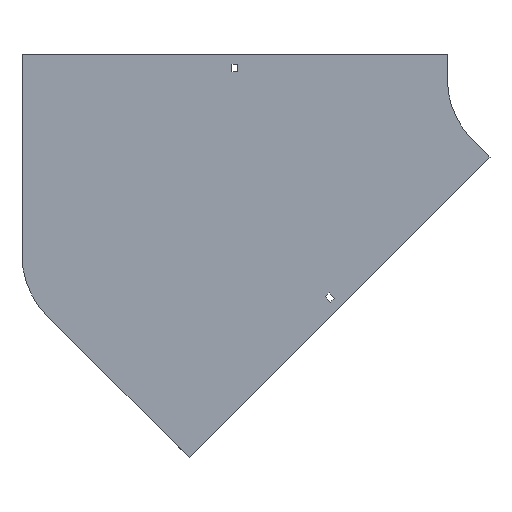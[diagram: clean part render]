
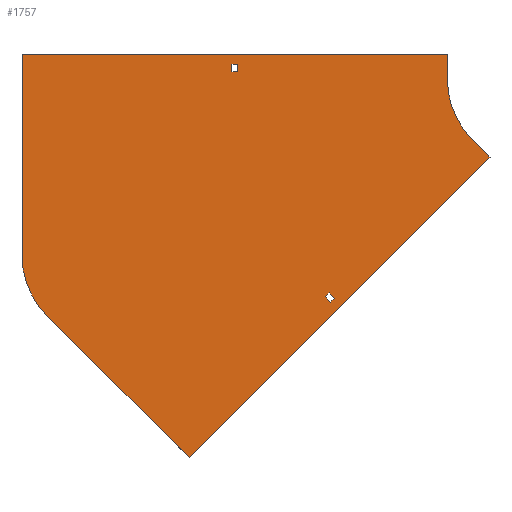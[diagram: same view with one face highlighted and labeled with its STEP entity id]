
A CAD part, front view. The second image highlights one B-rep face of the part: STEP entity #1757.
In plain terms, the highlighted planar face has unit normal (0, -1, 0).
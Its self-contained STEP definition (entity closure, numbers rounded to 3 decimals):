
#8 = EDGE_LOOP ( 'NONE', ( #658, #1760, #96, #1423 ) ) ;
#26 = CARTESIAN_POINT ( 'NONE',  ( -604., 0., 30. ) ) ;
#62 = DIRECTION ( 'NONE',  ( -0.707, 0., 0.707 ) ) ;
#72 = DIRECTION ( 'NONE',  ( 0., 0., -1. ) ) ;
#96 = ORIENTED_EDGE ( 'NONE', *, *, #189, .T. ) ;
#108 = ORIENTED_EDGE ( 'NONE', *, *, #1596, .F. ) ;
#119 = DIRECTION ( 'NONE',  ( 0., 0., 1. ) ) ;
#125 = CARTESIAN_POINT ( 'NONE',  ( -405.879, 0., -448.306 ) ) ;
#132 = VECTOR ( 'NONE', #1818, 1000. ) ;
#141 = CARTESIAN_POINT ( 'NONE',  ( -240.24, 0., -252.967 ) ) ;
#143 = CARTESIAN_POINT ( 'NONE',  ( -244.836, 0., -257.564 ) ) ;
#150 = DIRECTION ( 'NONE',  ( 0., 0., 1. ) ) ;
#178 = CARTESIAN_POINT ( 'NONE',  ( -355.25, 0., 18. ) ) ;
#189 = EDGE_CURVE ( 'NONE', #1571, #1083, #1104, .T. ) ;
#207 = VERTEX_POINT ( 'NONE', #1325 ) ;
#217 = DIRECTION ( 'NONE',  ( -0.707, 0., -0.707 ) ) ;
#221 = CARTESIAN_POINT ( 'NONE',  ( -355.25, 0., 9. ) ) ;
#229 = DIRECTION ( 'NONE',  ( 0., -1., 0. ) ) ;
#266 = EDGE_CURVE ( 'NONE', #1166, #304, #431, .T. ) ;
#276 = LINE ( 'NONE', #125, #1409 ) ;
#304 = VERTEX_POINT ( 'NONE', #1384 ) ;
#324 = DIRECTION ( 'NONE',  ( 0.707, 0., -0.707 ) ) ;
#334 = AXIS2_PLACEMENT_3D ( 'NONE', #976, #1579, #386 ) ;
#336 = VECTOR ( 'NONE', #1638, 1000. ) ;
#340 = CARTESIAN_POINT ( 'NONE',  ( -405.879, 0., -448.306 ) ) ;
#349 = EDGE_CURVE ( 'NONE', #995, #1571, #639, .T. ) ;
#359 = LINE ( 'NONE', #955, #1174 ) ;
#362 = DIRECTION ( 'NONE',  ( 0., 0., -1. ) ) ;
#378 = CARTESIAN_POINT ( 'NONE',  ( -604., 0., -208.764 ) ) ;
#386 = DIRECTION ( 'NONE',  ( 0., 0., -1. ) ) ;
#397 = VERTEX_POINT ( 'NONE', #1056 ) ;
#431 = LINE ( 'NONE', #1454, #1138 ) ;
#460 = CARTESIAN_POINT ( 'NONE',  ( -604., 0., 30. ) ) ;
#479 = VECTOR ( 'NONE', #814, 1000. ) ;
#492 = LINE ( 'NONE', #1408, #479 ) ;
#524 = ORIENTED_EDGE ( 'NONE', *, *, #1742, .F. ) ;
#527 = ORIENTED_EDGE ( 'NONE', *, *, #266, .F. ) ;
#553 = DIRECTION ( 'NONE',  ( 0.707, 0., 0.707 ) ) ;
#554 = EDGE_LOOP ( 'NONE', ( #1123, #1697, #1177, #1529, #1021, #1665, #1512, #881 ) ) ;
#555 = CARTESIAN_POINT ( 'NONE',  ( -238.472, 0., -263.928 ) ) ;
#569 = VECTOR ( 'NONE', #362, 1000. ) ;
#617 = VERTEX_POINT ( 'NONE', #26 ) ;
#639 = LINE ( 'NONE', #178, #1722 ) ;
#640 = FACE_OUTER_BOUND ( 'NONE', #554, .T. ) ;
#658 = ORIENTED_EDGE ( 'NONE', *, *, #819, .T. ) ;
#659 = EDGE_CURVE ( 'NONE', #1360, #1714, #359, .T. ) ;
#667 = DIRECTION ( 'NONE',  ( 0., 0., -1. ) ) ;
#668 = EDGE_CURVE ( 'NONE', #397, #817, #1434, .T. ) ;
#674 = VECTOR ( 'NONE', #1834, 1000. ) ;
#705 = VERTEX_POINT ( 'NONE', #1214 ) ;
#770 = DIRECTION ( 'NONE',  ( 1., 0., 0. ) ) ;
#772 = DIRECTION ( 'NONE',  ( 1., 0., 0. ) ) ;
#801 = CARTESIAN_POINT ( 'NONE',  ( -355.25, 0., 9. ) ) ;
#805 = CARTESIAN_POINT ( 'NONE',  ( -504., 0., -208.764 ) ) ;
#814 = DIRECTION ( 'NONE',  ( -0.707, 0., 0.707 ) ) ;
#816 = LINE ( 'NONE', #801, #1881 ) ;
#817 = VERTEX_POINT ( 'NONE', #378 ) ;
#819 = EDGE_CURVE ( 'NONE', #915, #995, #816, .T. ) ;
#827 = AXIS2_PLACEMENT_3D ( 'NONE', #1570, #229, #72 ) ;
#852 = CARTESIAN_POINT ( 'NONE',  ( -348.75, 0., 18. ) ) ;
#861 = EDGE_CURVE ( 'NONE', #817, #617, #1944, .T. ) ;
#881 = ORIENTED_EDGE ( 'NONE', *, *, #1490, .F. ) ;
#915 = VERTEX_POINT ( 'NONE', #1468 ) ;
#921 = VECTOR ( 'NONE', #324, 1000. ) ;
#945 = CARTESIAN_POINT ( 'NONE',  ( -70.711, 0., -70.711 ) ) ;
#955 = CARTESIAN_POINT ( 'NONE',  ( -49.497, 0., -91.924 ) ) ;
#976 = CARTESIAN_POINT ( 'NONE',  ( 0., 0., 0. ) ) ;
#994 = EDGE_CURVE ( 'NONE', #1714, #397, #276, .T. ) ;
#995 = VERTEX_POINT ( 'NONE', #1730 ) ;
#998 = LINE ( 'NONE', #1577, #1689 ) ;
#1005 = LINE ( 'NONE', #143, #336 ) ;
#1021 = ORIENTED_EDGE ( 'NONE', *, *, #659, .F. ) ;
#1032 = CARTESIAN_POINT ( 'NONE',  ( -100., 0., 30. ) ) ;
#1056 = CARTESIAN_POINT ( 'NONE',  ( -574.711, 0., -279.474 ) ) ;
#1065 = LINE ( 'NONE', #460, #1681 ) ;
#1083 = VERTEX_POINT ( 'NONE', #1136 ) ;
#1089 = CARTESIAN_POINT ( 'NONE',  ( -49.497, 0., -91.924 ) ) ;
#1104 = LINE ( 'NONE', #1711, #569 ) ;
#1106 = LINE ( 'NONE', #221, #674 ) ;
#1123 = ORIENTED_EDGE ( 'NONE', *, *, #1856, .F. ) ;
#1130 = EDGE_CURVE ( 'NONE', #705, #1473, #1724, .T. ) ;
#1136 = CARTESIAN_POINT ( 'NONE',  ( -348.75, 0., 9. ) ) ;
#1138 = VECTOR ( 'NONE', #553, 1000. ) ;
#1141 = CARTESIAN_POINT ( 'NONE',  ( -70.711, 0., -70.711 ) ) ;
#1166 = VERTEX_POINT ( 'NONE', #555 ) ;
#1174 = VECTOR ( 'NONE', #217, 1000. ) ;
#1177 = ORIENTED_EDGE ( 'NONE', *, *, #668, .F. ) ;
#1191 = CARTESIAN_POINT ( 'NONE',  ( -604., 0., -208.764 ) ) ;
#1213 = VERTEX_POINT ( 'NONE', #141 ) ;
#1214 = CARTESIAN_POINT ( 'NONE',  ( -100., 0., 0. ) ) ;
#1222 = LINE ( 'NONE', #1672, #921 ) ;
#1235 = VERTEX_POINT ( 'NONE', #1032 ) ;
#1269 = DIRECTION ( 'NONE',  ( 0., 0., 1. ) ) ;
#1272 = FACE_BOUND ( 'NONE', #1351, .T. ) ;
#1325 = CARTESIAN_POINT ( 'NONE',  ( -244.836, 0., -257.564 ) ) ;
#1351 = EDGE_LOOP ( 'NONE', ( #527, #1677, #108, #524 ) ) ;
#1360 = VERTEX_POINT ( 'NONE', #1089 ) ;
#1384 = CARTESIAN_POINT ( 'NONE',  ( -233.876, 0., -259.331 ) ) ;
#1408 = CARTESIAN_POINT ( 'NONE',  ( -240.24, 0., -252.967 ) ) ;
#1409 = VECTOR ( 'NONE', #62, 1000. ) ;
#1415 = DIRECTION ( 'NONE',  ( 0., 1., 0. ) ) ;
#1416 = LINE ( 'NONE', #945, #132 ) ;
#1423 = ORIENTED_EDGE ( 'NONE', *, *, #1674, .T. ) ;
#1434 = CIRCLE ( 'NONE', #1590, 100. ) ;
#1454 = CARTESIAN_POINT ( 'NONE',  ( -238.472, 0., -263.928 ) ) ;
#1468 = CARTESIAN_POINT ( 'NONE',  ( -355.25, 0., 9. ) ) ;
#1473 = VERTEX_POINT ( 'NONE', #1141 ) ;
#1490 = EDGE_CURVE ( 'NONE', #1235, #705, #998, .T. ) ;
#1512 = ORIENTED_EDGE ( 'NONE', *, *, #1130, .F. ) ;
#1529 = ORIENTED_EDGE ( 'NONE', *, *, #994, .F. ) ;
#1561 = FACE_BOUND ( 'NONE', #8, .T. ) ;
#1570 = CARTESIAN_POINT ( 'NONE',  ( 0., 0., 0. ) ) ;
#1571 = VERTEX_POINT ( 'NONE', #852 ) ;
#1577 = CARTESIAN_POINT ( 'NONE',  ( -100., 0., 30. ) ) ;
#1579 = DIRECTION ( 'NONE',  ( 0., -1., 0. ) ) ;
#1590 = AXIS2_PLACEMENT_3D ( 'NONE', #805, #1415, #1269 ) ;
#1596 = EDGE_CURVE ( 'NONE', #1213, #207, #1005, .T. ) ;
#1638 = DIRECTION ( 'NONE',  ( -0.707, 0., -0.707 ) ) ;
#1654 = EDGE_CURVE ( 'NONE', #207, #1166, #1222, .T. ) ;
#1665 = ORIENTED_EDGE ( 'NONE', *, *, #1823, .F. ) ;
#1672 = CARTESIAN_POINT ( 'NONE',  ( -244.836, 0., -257.564 ) ) ;
#1674 = EDGE_CURVE ( 'NONE', #1083, #915, #1106, .T. ) ;
#1677 = ORIENTED_EDGE ( 'NONE', *, *, #1654, .F. ) ;
#1681 = VECTOR ( 'NONE', #770, 1000. ) ;
#1689 = VECTOR ( 'NONE', #667, 1000. ) ;
#1697 = ORIENTED_EDGE ( 'NONE', *, *, #861, .F. ) ;
#1711 = CARTESIAN_POINT ( 'NONE',  ( -348.75, 0., 9. ) ) ;
#1714 = VERTEX_POINT ( 'NONE', #340 ) ;
#1722 = VECTOR ( 'NONE', #772, 1000. ) ;
#1723 = PLANE ( 'NONE',  #827 ) ;
#1724 = CIRCLE ( 'NONE', #334, 100. ) ;
#1730 = CARTESIAN_POINT ( 'NONE',  ( -355.25, 0., 18. ) ) ;
#1742 = EDGE_CURVE ( 'NONE', #304, #1213, #492, .T. ) ;
#1757 = ADVANCED_FACE ( 'NONE', ( #1561, #640, #1272 ), #1723, .T. ) ;
#1760 = ORIENTED_EDGE ( 'NONE', *, *, #349, .T. ) ;
#1818 = DIRECTION ( 'NONE',  ( 0.707, 0., -0.707 ) ) ;
#1823 = EDGE_CURVE ( 'NONE', #1473, #1360, #1416, .T. ) ;
#1834 = DIRECTION ( 'NONE',  ( -1., 0., 0. ) ) ;
#1856 = EDGE_CURVE ( 'NONE', #617, #1235, #1065, .T. ) ;
#1881 = VECTOR ( 'NONE', #119, 1000. ) ;
#1934 = VECTOR ( 'NONE', #150, 1000. ) ;
#1944 = LINE ( 'NONE', #1191, #1934 ) ;
